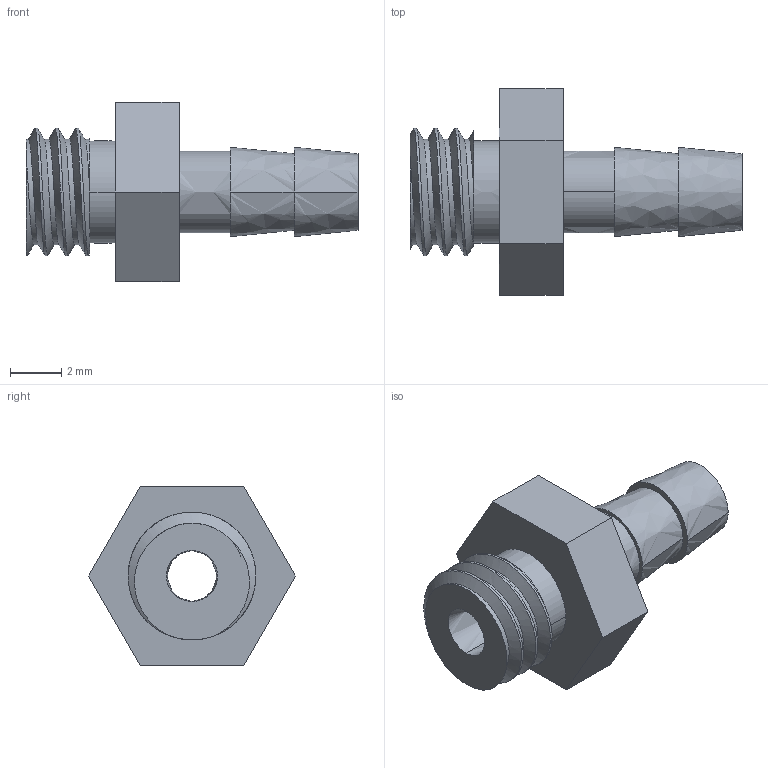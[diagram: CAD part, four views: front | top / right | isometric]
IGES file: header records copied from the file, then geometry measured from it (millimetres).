
Start section:  PTC IGES file: 190109_bf_5.igs
Global section: file name: 190109_bf_5.igs; native system: Pro/ENGINEER by Parametric Technology Corporation; preprocessor: 2004090; author: KAIHATSU01; organization: Unknown; date: 061017.112332; units: millimetre
Bounding box: 13 x 8.1 x 7.01 mm (x, y, z)
Volume: 176.2 mm3; surface area: 373.6 mm2
Topology: 1 solids, 1 shells, 35 faces, 82 edges, 54 vertices
Faces by surface type: bspline 35
